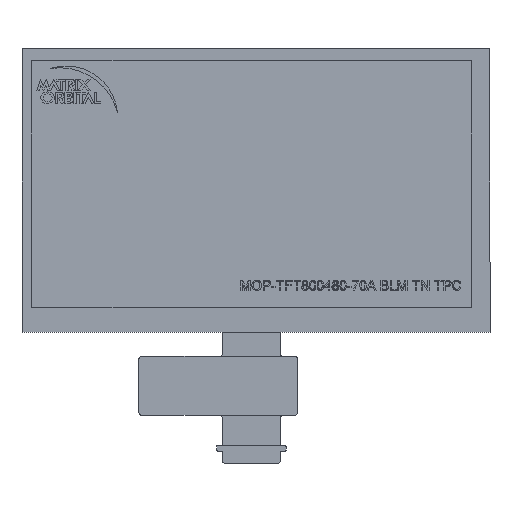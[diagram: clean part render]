
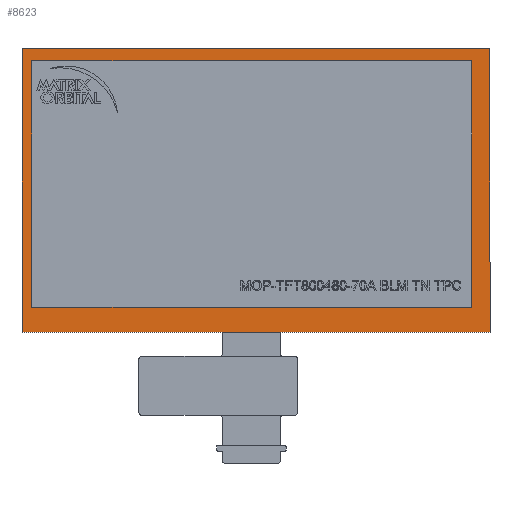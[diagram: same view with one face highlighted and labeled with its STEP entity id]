
A CAD part, top view. The second image highlights one B-rep face of the part: STEP entity #8623.
In plain terms, the highlighted planar face has unit normal (0, 0, 1).
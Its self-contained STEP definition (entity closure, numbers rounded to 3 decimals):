
#654 = CARTESIAN_POINT ( 'NONE',  ( 83.99, -52.26, 3.535 ) ) ;
#799 = EDGE_CURVE ( 'NONE', #11101, #20547, #2714, .T. ) ;
#1969 = CARTESIAN_POINT ( 'NONE',  ( -77.54, 43.46, 3.535 ) ) ;
#2032 = DIRECTION ( 'NONE',  ( 1., 0., 0. ) ) ;
#2053 = ORIENTED_EDGE ( 'NONE', *, *, #11462, .F. ) ;
#2129 = LINE ( 'NONE', #17278, #11958 ) ;
#2346 = VERTEX_POINT ( 'NONE', #2591 ) ;
#2591 = CARTESIAN_POINT ( 'NONE',  ( 77.54, 43.46, 3.535 ) ) ;
#2714 = LINE ( 'NONE', #18495, #2831 ) ;
#2831 = VECTOR ( 'NONE', #4928, 1000. ) ;
#3270 = CARTESIAN_POINT ( 'NONE',  ( 77.54, -43.46, 3.535 ) ) ;
#3692 = DIRECTION ( 'NONE',  ( -1., 0., 0. ) ) ;
#4098 = DIRECTION ( 'NONE',  ( -1., 0., 0. ) ) ;
#4518 = ORIENTED_EDGE ( 'NONE', *, *, #5700, .T. ) ;
#4928 = DIRECTION ( 'NONE',  ( 0., 1., 0. ) ) ;
#5196 = VECTOR ( 'NONE', #15807, 1000. ) ;
#5700 = EDGE_CURVE ( 'NONE', #20547, #22330, #2129, .T. ) ;
#5789 = CARTESIAN_POINT ( 'NONE',  ( -77.54, 43.46, 3.535 ) ) ;
#5864 = ORIENTED_EDGE ( 'NONE', *, *, #22124, .F. ) ;
#5892 = EDGE_CURVE ( 'NONE', #13110, #14666, #21503, .T. ) ;
#6579 = PLANE ( 'NONE',  #24871 ) ;
#7241 = ORIENTED_EDGE ( 'NONE', *, *, #799, .T. ) ;
#7481 = ORIENTED_EDGE ( 'NONE', *, *, #7858, .F. ) ;
#7858 = EDGE_CURVE ( 'NONE', #25586, #2346, #21799, .T. ) ;
#7911 = EDGE_LOOP ( 'NONE', ( #16501, #25526, #7241, #4518 ) ) ;
#7912 = LINE ( 'NONE', #21493, #5196 ) ;
#8623 = ADVANCED_FACE ( 'NONE', ( #16399, #14332 ), #6579, .T. ) ;
#9464 = DIRECTION ( 'NONE',  ( 0., -1., 0. ) ) ;
#9480 = DIRECTION ( 'NONE',  ( 0., -1., 0. ) ) ;
#9605 = VECTOR ( 'NONE', #9480, 1000. ) ;
#10161 = LINE ( 'NONE', #5789, #16324 ) ;
#10948 = CARTESIAN_POINT ( 'NONE',  ( -81.01, 47.74, 3.535 ) ) ;
#11101 = VERTEX_POINT ( 'NONE', #654 ) ;
#11439 = CARTESIAN_POINT ( 'NONE',  ( -81.01, 47.74, 3.535 ) ) ;
#11462 = EDGE_CURVE ( 'NONE', #14666, #25586, #16131, .T. ) ;
#11958 = VECTOR ( 'NONE', #3692, 1000. ) ;
#12988 = CARTESIAN_POINT ( 'NONE',  ( 83.99, 47.74, 3.535 ) ) ;
#13110 = VERTEX_POINT ( 'NONE', #15108 ) ;
#13128 = DIRECTION ( 'NONE',  ( 0., 1., 0. ) ) ;
#14332 = FACE_OUTER_BOUND ( 'NONE', #7911, .T. ) ;
#14666 = VERTEX_POINT ( 'NONE', #18616 ) ;
#15108 = CARTESIAN_POINT ( 'NONE',  ( -77.54, 43.46, 3.535 ) ) ;
#15694 = LINE ( 'NONE', #11439, #9605 ) ;
#15807 = DIRECTION ( 'NONE',  ( 1., 0., 0. ) ) ;
#15988 = CARTESIAN_POINT ( 'NONE',  ( 77.54, 43.46, 3.535 ) ) ;
#16131 = LINE ( 'NONE', #20260, #24437 ) ;
#16324 = VECTOR ( 'NONE', #4098, 1000. ) ;
#16399 = FACE_BOUND ( 'NONE', #24990, .T. ) ;
#16501 = ORIENTED_EDGE ( 'NONE', *, *, #18206, .T. ) ;
#17278 = CARTESIAN_POINT ( 'NONE',  ( -81.01, 47.74, 3.535 ) ) ;
#18206 = EDGE_CURVE ( 'NONE', #22330, #22368, #15694, .T. ) ;
#18495 = CARTESIAN_POINT ( 'NONE',  ( 83.99, 47.74, 3.535 ) ) ;
#18616 = CARTESIAN_POINT ( 'NONE',  ( -77.54, -43.46, 3.535 ) ) ;
#18842 = CARTESIAN_POINT ( 'NONE',  ( -81.01, -52.26, 3.535 ) ) ;
#19208 = VECTOR ( 'NONE', #13128, 1000. ) ;
#20260 = CARTESIAN_POINT ( 'NONE',  ( -77.54, -43.46, 3.535 ) ) ;
#20547 = VERTEX_POINT ( 'NONE', #12988 ) ;
#21493 = CARTESIAN_POINT ( 'NONE',  ( -81.01, -52.26, 3.535 ) ) ;
#21503 = LINE ( 'NONE', #1969, #22284 ) ;
#21799 = LINE ( 'NONE', #15988, #19208 ) ;
#21824 = EDGE_CURVE ( 'NONE', #22368, #11101, #7912, .T. ) ;
#22124 = EDGE_CURVE ( 'NONE', #2346, #13110, #10161, .T. ) ;
#22227 = DIRECTION ( 'NONE',  ( 1., 0., 0. ) ) ;
#22284 = VECTOR ( 'NONE', #9464, 1000. ) ;
#22330 = VERTEX_POINT ( 'NONE', #10948 ) ;
#22358 = CARTESIAN_POINT ( 'NONE',  ( 0., 0., 3.535 ) ) ;
#22368 = VERTEX_POINT ( 'NONE', #18842 ) ;
#24148 = ORIENTED_EDGE ( 'NONE', *, *, #5892, .F. ) ;
#24164 = DIRECTION ( 'NONE',  ( 0., 0., 1. ) ) ;
#24437 = VECTOR ( 'NONE', #2032, 1000. ) ;
#24871 = AXIS2_PLACEMENT_3D ( 'NONE', #22358, #24164, #22227 ) ;
#24990 = EDGE_LOOP ( 'NONE', ( #24148, #5864, #7481, #2053 ) ) ;
#25526 = ORIENTED_EDGE ( 'NONE', *, *, #21824, .T. ) ;
#25586 = VERTEX_POINT ( 'NONE', #3270 ) ;
